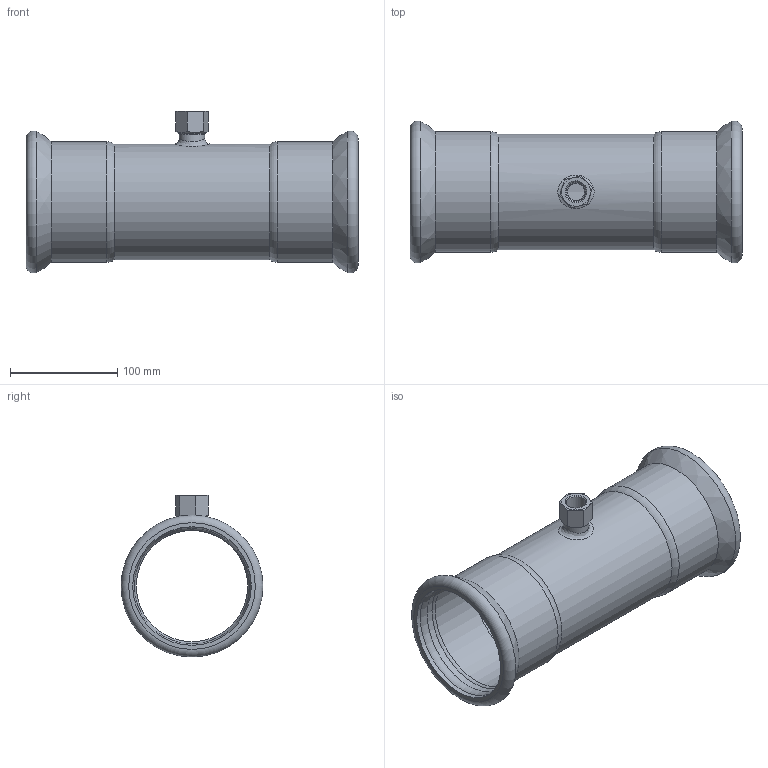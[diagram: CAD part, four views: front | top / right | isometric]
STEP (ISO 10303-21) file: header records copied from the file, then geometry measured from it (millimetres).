
FILE_DESCRIPTION(/* description */ ('TEE CON DERIVAZIONE FILETTATA FEMMINA 108x3/4"x108'),/* implementation_level */ '2;1');
FILE_NAME(/* name */ 'T:\A_ARTICOLI\ARTICOLI PRODOTTI_WEB\Articoli_STEELPRES_WEB\Temporary Step\389102108_Steelpres.ipt.step',/* time_stamp */ '2016-01-20T11:57:00+01:00',/* author */ ('Ghirlinghelli Diego'),/* organization */ (''),/* preprocessor_version */ 'ST-DEVELOPER v15.2',/* originating_system */ 'Autodesk Inventor 2014',/* authorisation */ 'R.M. S.p.A. si riserva a termini di legge la proprietà del presente disegno con divieto di riprodurlo o comunicarlo a terzi senza sua autorizzazione scritta');
FILE_SCHEMA (('AUTOMOTIVE_DESIGN { 1 0 10303 214 3 1 1 }'));
Length unit declared in the file: millimetre
Products named in the file (1): 389102108_Steelpres
Bounding box: 310 x 132.47 x 151.23 mm (x, y, z)
Volume: 331823.2 mm3; surface area: 227222.3 mm2
Topology: 1 solids, 1 shells, 51 faces, 119 edges, 73 vertices
Faces by surface type: cylinder 15, torus 11, plane 11, cone 10, bspline 4
Full cylindrical faces by diameter (mm): 16 x1, 18.631 x1, 20 x1, 21 x1, 24 x1, 104 x1, 108 x1, 108.8 x2, 110.7 x4, 112.8 x2
Entity records: 1563 total; most frequent: CARTESIAN_POINT 584, DIRECTION 196, ORIENTED_EDGE 154, AXIS2_PLACEMENT_3D 95, EDGE_LOOP 88, EDGE_CURVE 77, VERTEX_POINT 61, ADVANCED_FACE 51
